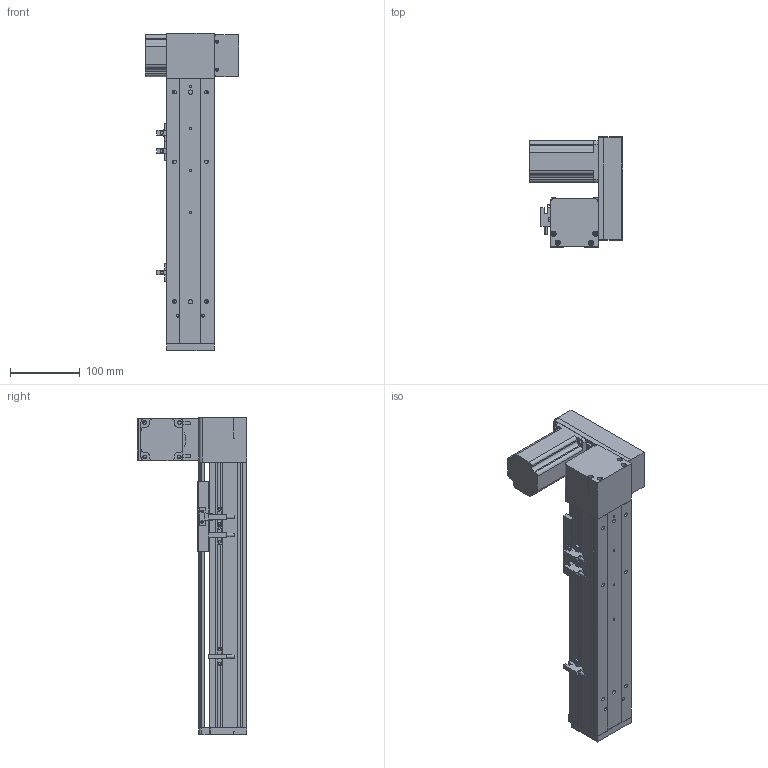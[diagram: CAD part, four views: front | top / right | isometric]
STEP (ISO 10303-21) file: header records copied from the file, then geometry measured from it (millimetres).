
FILE_DESCRIPTION (( 'STEP AP203' ), '1' );
FILE_NAME ('ML68-S200-UL.STEP', '2016-08-04T12:28:43', ( '' ), ( '' ), 'SwSTEP 2.0', 'SolidWorks 2014', '' );
FILE_SCHEMA (( 'CONFIG_CONTROL_DESIGN' ));
Length unit declared in the file: millimetre
Products named in the file (11): 換覜ん; QS68左右折电机板罩子; ML68菁釱^ML68-S200-UL; ML68奻裔^ML68-S200-UL; 60換覜結え; ML68雄赽釱; ML68-S200-UL; ML68傷啣; QS68酘衵殏萇儂啣; ML68-BR傷啣; 三协电机MH201N2_預設
Assembly tree (12 placements, depth 2):
  ML68-S200-UL
    ML68菁釱^ML68-S200-UL
    ML68奻裔^ML68-S200-UL
    60換覜結え
    ML68-BR傷啣
    換覜ん  x3
    ML68傷啣
    三协电机MH201N2_預設
    ML68雄赽釱
    QS68酘衵殏萇儂啣
    QS68左右折电机板罩子
Bounding box: 133.5 x 157 x 454 mm (x, y, z)
Volume: 1201853.1 mm3; surface area: 396110.1 mm2
Topology: 12 solids, 12 shells, 803 faces, 2200 edges, 1395 vertices
Faces by surface type: cylinder 360, plane 351, cone 92
Entity records: 25023 total; most frequent: CARTESIAN_POINT 4565, DIRECTION 4140, ORIENTED_EDGE 3908, EDGE_CURVE 1954, AXIS2_PLACEMENT_3D 1486, VERTEX_POINT 1283, VECTOR 1168, LINE 1168
